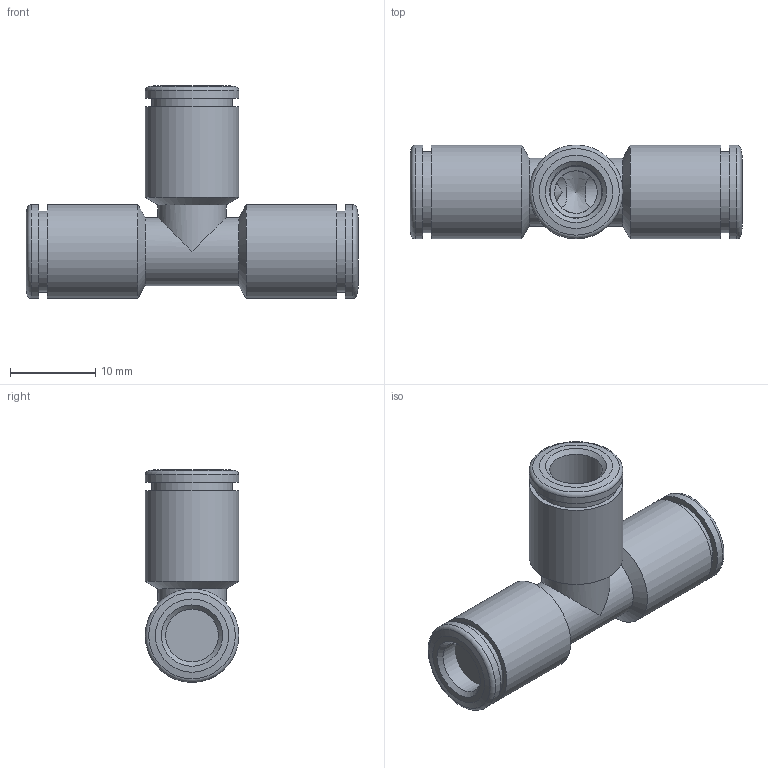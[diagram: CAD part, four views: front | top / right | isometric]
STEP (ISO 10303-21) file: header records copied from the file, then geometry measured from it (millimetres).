
FILE_DESCRIPTION(('Bauteilbeschreibung','HiCAD-Model','HiCAD-STEP-TRANSLATION','Bauteilbeschreibung'),'2;1');
FILE_NAME('B:/ABGLEICH/ZEICHNUNGEN/STEP FÜR INTERNET/STEP/200503_IPSO_05_6.STP','2011-07-22T08:01:49+00:00',('Konstrukteur'),('Konstrukteur Firma GmbH'),' HiCAD neXt 2008, Step 3.1.1401.2J ','HiCAD neXt 2008','confidential');
FILE_SCHEMA(('AUTOMOTIVE_DESIGN { 1 2 10303 214 0 1 1 1 }'));
Length unit declared in the file: millimetre
Products named in the file (6): A00503_IPSO_05_6; DR6_1_NEU; DR6010NEU; DR6010NEU0; INLET_6_NEU; R200503
Assembly tree (5 placements, depth 2):
  A00503_IPSO_05_6
    DR6_1_NEU
    DR6010NEU
    DR6010NEU0
    INLET_6_NEU
    R200503
Bounding box: 39 x 11 x 25 mm (x, y, z)
Volume: 3141.6 mm3; surface area: 5051.1 mm2
Topology: 5 solids, 5 shells, 86 faces, 172 edges, 101 vertices
Faces by surface type: cylinder 34, cone 32, plane 17, torus 3
Full cylindrical faces by diameter (mm): 5 x3, 6.1 x4, 6.2 x3, 8 x2, 8.3 x3, 9 x4, 9.5 x3, 9.6 x4, 11 x6
Entity records: 2558 total; most frequent: CARTESIAN_POINT 431, DIRECTION 372, AXIS2_PLACEMENT_3D 186, ORIENTED_EDGE 184, EDGE_LOOP 168, COLOUR_RGB 95, PRESENTATION_STYLE_ASSIGNMENT 95, EDGE_CURVE 92
